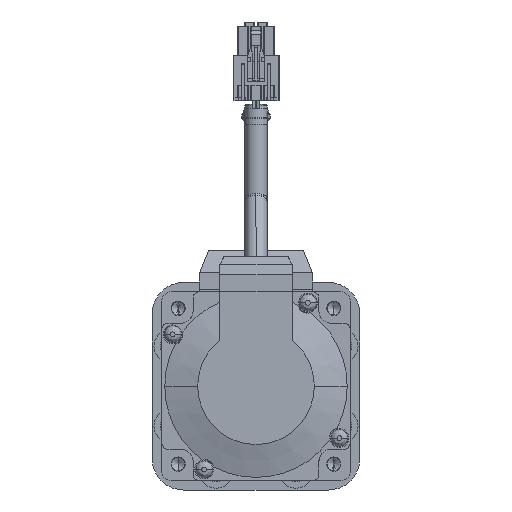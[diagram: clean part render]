
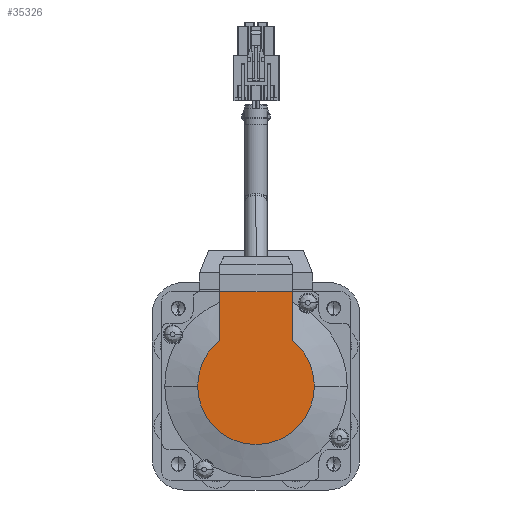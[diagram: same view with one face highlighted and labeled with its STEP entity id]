
A CAD part, left-side view. The second image highlights one B-rep face of the part: STEP entity #35326.
In plain terms, the highlighted planar face has unit normal (-1, 0, 0).
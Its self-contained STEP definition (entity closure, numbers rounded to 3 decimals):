
#253 = ORIENTED_EDGE ( 'NONE', *, *, #12907, .F. ) ;
#970 = ORIENTED_EDGE ( 'NONE', *, *, #15015, .T. ) ;
#1104 = AXIS2_PLACEMENT_3D ( 'NONE', #45064, #41223, #37400 ) ;
#1939 = AXIS2_PLACEMENT_3D ( 'NONE', #22457, #29195, #3979 ) ;
#3274 = VERTEX_POINT ( 'NONE', #45727 ) ;
#3979 = DIRECTION ( 'NONE',  ( 0., 1., 0. ) ) ;
#4420 = CARTESIAN_POINT ( 'NONE',  ( -79.5, 0., 0. ) ) ;
#5919 = DIRECTION ( 'NONE',  ( 0., -1., 0. ) ) ;
#7205 = CARTESIAN_POINT ( 'NONE',  ( -79.5, 22.289, -11.45 ) ) ;
#9197 = CIRCLE ( 'NONE', #42108, 18.538 ) ;
#9674 = VECTOR ( 'NONE', #5919, 1000. ) ;
#11624 = AXIS2_PLACEMENT_3D ( 'NONE', #4420, #22427, #25817 ) ;
#12907 = EDGE_CURVE ( 'NONE', #40657, #3274, #32318, .T. ) ;
#13755 = CARTESIAN_POINT ( 'NONE',  ( -79.5, 0., -18.538 ) ) ;
#15015 = EDGE_CURVE ( 'NONE', #41547, #23711, #21640, .T. ) ;
#15118 = DIRECTION ( 'NONE',  ( 0., 1., 0. ) ) ;
#15647 = EDGE_CURVE ( 'NONE', #36419, #23711, #40961, .T. ) ;
#17347 = EDGE_CURVE ( 'NONE', #41547, #40657, #38045, .T. ) ;
#17349 = CARTESIAN_POINT ( 'NONE',  ( -79.5, 30., 18.538 ) ) ;
#17821 = DIRECTION ( 'NONE',  ( 0., 0., -1. ) ) ;
#18805 = CARTESIAN_POINT ( 'NONE',  ( -79.5, 30., 11.45 ) ) ;
#20026 = EDGE_LOOP ( 'NONE', ( #26126, #43681, #32758, #253, #40555, #970 ) ) ;
#21640 = LINE ( 'NONE', #17349, #24589 ) ;
#22427 = DIRECTION ( 'NONE',  ( 1., 0., 0. ) ) ;
#22457 = CARTESIAN_POINT ( 'NONE',  ( -79.5, -18.538, 18.773 ) ) ;
#23652 = CARTESIAN_POINT ( 'NONE',  ( -79.5, 14.579, 11.45 ) ) ;
#23711 = VERTEX_POINT ( 'NONE', #35997 ) ;
#24510 = CARTESIAN_POINT ( 'NONE',  ( -79.5, 0., 0. ) ) ;
#24589 = VECTOR ( 'NONE', #17821, 1000. ) ;
#25817 = DIRECTION ( 'NONE',  ( 0., 0., -1. ) ) ;
#26126 = ORIENTED_EDGE ( 'NONE', *, *, #15647, .F. ) ;
#29195 = DIRECTION ( 'NONE',  ( -1., 0., 0. ) ) ;
#32318 = CIRCLE ( 'NONE', #11624, 18.538 ) ;
#32758 = ORIENTED_EDGE ( 'NONE', *, *, #38402, .F. ) ;
#32800 = FACE_OUTER_BOUND ( 'NONE', #20026, .T. ) ;
#34050 = CIRCLE ( 'NONE', #1104, 18.538 ) ;
#34462 = CARTESIAN_POINT ( 'NONE',  ( -79.5, 22.289, 11.45 ) ) ;
#34565 = DIRECTION ( 'NONE',  ( 0., 0., -1. ) ) ;
#35326 = ADVANCED_FACE ( 'NONE', ( #32800 ), #44273, .T. ) ;
#35997 = CARTESIAN_POINT ( 'NONE',  ( -79.5, 30., -11.45 ) ) ;
#36084 = CARTESIAN_POINT ( 'NONE',  ( -79.5, 14.579, -11.45 ) ) ;
#36419 = VERTEX_POINT ( 'NONE', #36084 ) ;
#36676 = VERTEX_POINT ( 'NONE', #13755 ) ;
#37400 = DIRECTION ( 'NONE',  ( 0., 0., -1. ) ) ;
#37968 = VECTOR ( 'NONE', #15118, 1000. ) ;
#38045 = LINE ( 'NONE', #34462, #9674 ) ;
#38402 = EDGE_CURVE ( 'NONE', #3274, #36676, #9197, .T. ) ;
#40555 = ORIENTED_EDGE ( 'NONE', *, *, #17347, .F. ) ;
#40657 = VERTEX_POINT ( 'NONE', #23652 ) ;
#40961 = LINE ( 'NONE', #7205, #37968 ) ;
#41223 = DIRECTION ( 'NONE',  ( 1., 0., 0. ) ) ;
#41547 = VERTEX_POINT ( 'NONE', #18805 ) ;
#42108 = AXIS2_PLACEMENT_3D ( 'NONE', #24510, #42451, #34565 ) ;
#42451 = DIRECTION ( 'NONE',  ( 1., 0., 0. ) ) ;
#43681 = ORIENTED_EDGE ( 'NONE', *, *, #44933, .F. ) ;
#44273 = PLANE ( 'NONE',  #1939 ) ;
#44933 = EDGE_CURVE ( 'NONE', #36676, #36419, #34050, .T. ) ;
#45064 = CARTESIAN_POINT ( 'NONE',  ( -79.5, 0., 0. ) ) ;
#45727 = CARTESIAN_POINT ( 'NONE',  ( -79.5, 0., 18.538 ) ) ;
